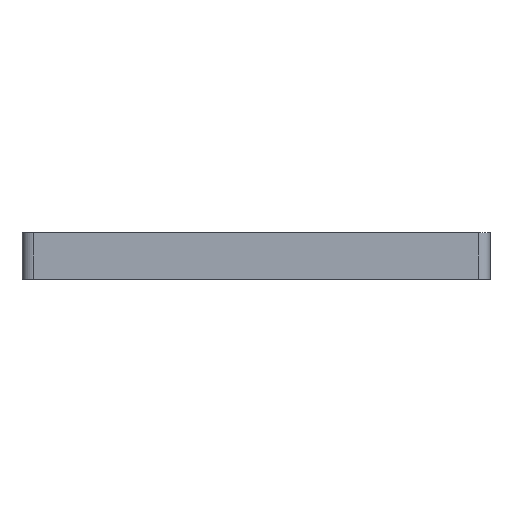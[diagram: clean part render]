
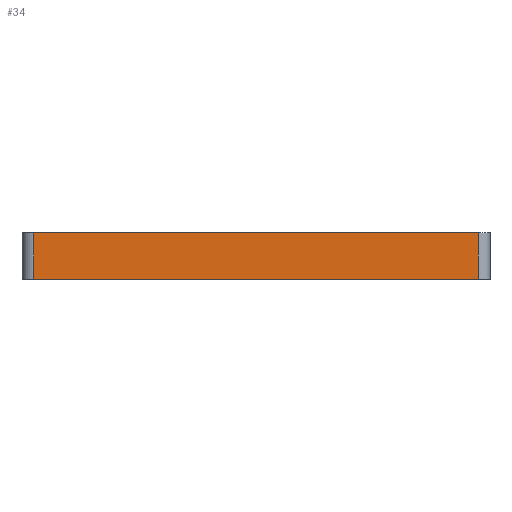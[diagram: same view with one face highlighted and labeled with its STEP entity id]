
A CAD part, front view. The second image highlights one B-rep face of the part: STEP entity #34.
In plain terms, the highlighted planar face has unit normal (0, -1, 0).
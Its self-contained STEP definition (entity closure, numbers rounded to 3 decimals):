
#1 = EDGE_LOOP ( 'NONE', ( #3, #37, #25, #27 ) ) ;
#3 = ORIENTED_EDGE ( 'NONE', *, *, #2156, .T. ) ;
#8 = EDGE_CURVE ( 'NONE', #2138, #2235, #668, .T. ) ;
#25 = ORIENTED_EDGE ( 'NONE', *, *, #2248, .F. ) ;
#27 = ORIENTED_EDGE ( 'NONE', *, *, #35, .T. ) ;
#34 = ADVANCED_FACE ( 'NONE', ( #715 ), #692, .F. ) ;
#35 = EDGE_CURVE ( 'NONE', #2250, #2141, #740, .T. ) ;
#37 = ORIENTED_EDGE ( 'NONE', *, *, #8, .T. ) ;
#648 = DIRECTION ( 'NONE',  ( 0., 0., 1. ) ) ;
#649 = VECTOR ( 'NONE', #648, 1000. ) ;
#666 = CARTESIAN_POINT ( 'NONE',  ( 97.5, -170., 5. ) ) ;
#668 = LINE ( 'NONE', #666, #649 ) ;
#682 = DIRECTION ( 'NONE',  ( 0., 0., 1. ) ) ;
#683 = DIRECTION ( 'NONE',  ( 0., 1., 0. ) ) ;
#692 = PLANE ( 'NONE',  #702 ) ;
#702 = AXIS2_PLACEMENT_3D ( 'NONE', #706, #683, #682 ) ;
#706 = CARTESIAN_POINT ( 'NONE',  ( 0., -170., 5. ) ) ;
#715 = FACE_OUTER_BOUND ( 'NONE', #1, .T. ) ;
#737 = DIRECTION ( 'NONE',  ( 0., 0., -1. ) ) ;
#738 = VECTOR ( 'NONE', #737, 1000. ) ;
#739 = CARTESIAN_POINT ( 'NONE',  ( 2.5, -170., 5. ) ) ;
#740 = LINE ( 'NONE', #739, #738 ) ;
#1754 = CARTESIAN_POINT ( 'NONE',  ( 97.5, -170., -5. ) ) ;
#1776 = DIRECTION ( 'NONE',  ( 1., 0., 0. ) ) ;
#1777 = VECTOR ( 'NONE', #1776, 1000. ) ;
#1778 = CARTESIAN_POINT ( 'NONE',  ( 0., -170., -5. ) ) ;
#1779 = LINE ( 'NONE', #1778, #1777 ) ;
#1807 = CARTESIAN_POINT ( 'NONE',  ( 2.5, -170., -5. ) ) ;
#1939 = CARTESIAN_POINT ( 'NONE',  ( 2.5, -170., 5. ) ) ;
#1958 = VECTOR ( 'NONE', #2015, 1000. ) ;
#1959 = CARTESIAN_POINT ( 'NONE',  ( 0., -170., 5. ) ) ;
#1960 = LINE ( 'NONE', #1959, #1958 ) ;
#1986 = CARTESIAN_POINT ( 'NONE',  ( 97.5, -170., 5. ) ) ;
#2015 = DIRECTION ( 'NONE',  ( 1., 0., 0. ) ) ;
#2138 = VERTEX_POINT ( 'NONE', #1754 ) ;
#2141 = VERTEX_POINT ( 'NONE', #1807 ) ;
#2156 = EDGE_CURVE ( 'NONE', #2141, #2138, #1779, .T. ) ;
#2235 = VERTEX_POINT ( 'NONE', #1986 ) ;
#2248 = EDGE_CURVE ( 'NONE', #2250, #2235, #1960, .T. ) ;
#2250 = VERTEX_POINT ( 'NONE', #1939 ) ;
